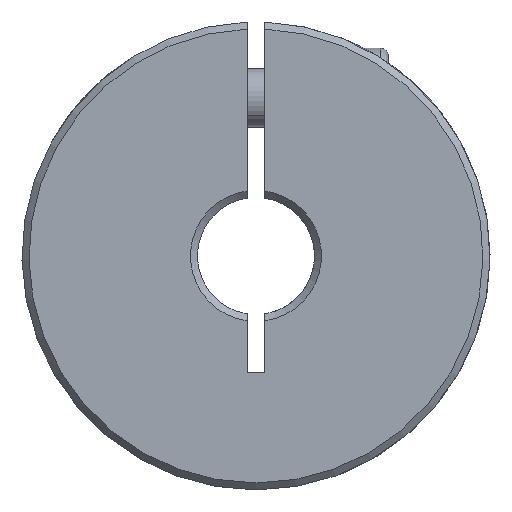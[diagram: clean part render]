
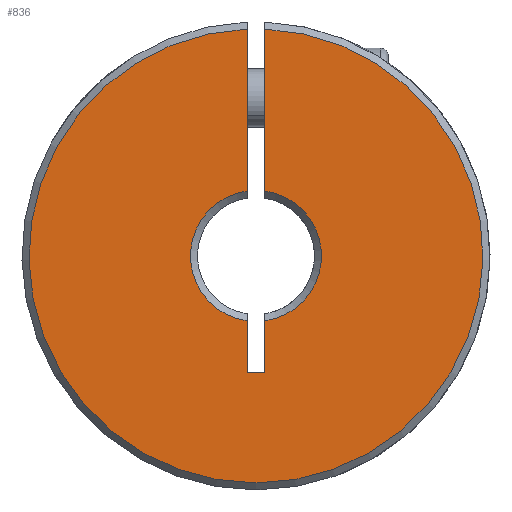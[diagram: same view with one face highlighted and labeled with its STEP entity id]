
A CAD part, front view. The second image highlights one B-rep face of the part: STEP entity #836.
In plain terms, the highlighted planar face has unit normal (0, -1, 0).
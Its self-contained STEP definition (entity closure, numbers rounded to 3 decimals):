
#24 = CARTESIAN_POINT ( 'NONE',  ( 0., -25., 0. ) ) ;
#72 = ORIENTED_EDGE ( 'NONE', *, *, #2933, .T. ) ;
#148 = EDGE_CURVE ( 'NONE', #2249, #572, #5348, .T. ) ;
#203 = VERTEX_POINT ( 'NONE', #5585 ) ;
#226 = AXIS2_PLACEMENT_3D ( 'NONE', #1311, #4917, #852 ) ;
#239 = AXIS2_PLACEMENT_3D ( 'NONE', #24, #482, #3671 ) ;
#270 = EDGE_LOOP ( 'NONE', ( #4717, #2692, #3894, #5041, #2250, #2027, #72, #3761 ) ) ;
#297 = CARTESIAN_POINT ( 'NONE',  ( 0.75, -25., -5.55 ) ) ;
#482 = DIRECTION ( 'NONE',  ( 0., 1., 0. ) ) ;
#572 = VERTEX_POINT ( 'NONE', #4559 ) ;
#682 = VECTOR ( 'NONE', #1394, 1000. ) ;
#836 = ADVANCED_FACE ( 'NONE', ( #5671 ), #1992, .F. ) ;
#852 = DIRECTION ( 'NONE',  ( 0., 0., 1. ) ) ;
#950 = DIRECTION ( 'NONE',  ( 0., 0., -1. ) ) ;
#973 = EDGE_CURVE ( 'NONE', #3201, #2249, #2307, .T. ) ;
#997 = VECTOR ( 'NONE', #2251, 1000. ) ;
#1138 = DIRECTION ( 'NONE',  ( 0., 0., 1. ) ) ;
#1218 = VECTOR ( 'NONE', #2365, 1000. ) ;
#1311 = CARTESIAN_POINT ( 'NONE',  ( 0., -25., 0. ) ) ;
#1394 = DIRECTION ( 'NONE',  ( 0., 0., 1. ) ) ;
#1444 = CARTESIAN_POINT ( 'NONE',  ( -0.75, -25., -10. ) ) ;
#1468 = LINE ( 'NONE', #4246, #1218 ) ;
#1509 = VECTOR ( 'NONE', #1640, 1000. ) ;
#1543 = CARTESIAN_POINT ( 'NONE',  ( 0.75, -25., 19.385 ) ) ;
#1603 = VERTEX_POINT ( 'NONE', #5648 ) ;
#1640 = DIRECTION ( 'NONE',  ( 0., 0., 1. ) ) ;
#1721 = EDGE_CURVE ( 'NONE', #3378, #203, #2514, .T. ) ;
#1992 = PLANE ( 'NONE',  #4302 ) ;
#2027 = ORIENTED_EDGE ( 'NONE', *, *, #5778, .T. ) ;
#2249 = VERTEX_POINT ( 'NONE', #297 ) ;
#2250 = ORIENTED_EDGE ( 'NONE', *, *, #1721, .T. ) ;
#2251 = DIRECTION ( 'NONE',  ( 0., 0., -1. ) ) ;
#2307 = CIRCLE ( 'NONE', #226, 5.6 ) ;
#2365 = DIRECTION ( 'NONE',  ( -1., 0., 0. ) ) ;
#2456 = EDGE_CURVE ( 'NONE', #572, #3378, #1468, .T. ) ;
#2514 = LINE ( 'NONE', #5708, #1509 ) ;
#2640 = EDGE_CURVE ( 'NONE', #4040, #5136, #4440, .T. ) ;
#2692 = ORIENTED_EDGE ( 'NONE', *, *, #973, .T. ) ;
#2698 = CIRCLE ( 'NONE', #239, 5.6 ) ;
#2800 = CARTESIAN_POINT ( 'NONE',  ( -0.75, -25., 19.385 ) ) ;
#2933 = EDGE_CURVE ( 'NONE', #1603, #4040, #5487, .T. ) ;
#2941 = DIRECTION ( 'NONE',  ( 0., 1., 0. ) ) ;
#3198 = CARTESIAN_POINT ( 'NONE',  ( 0.75, -25., -10. ) ) ;
#3201 = VERTEX_POINT ( 'NONE', #3893 ) ;
#3378 = VERTEX_POINT ( 'NONE', #1444 ) ;
#3420 = CARTESIAN_POINT ( 'NONE',  ( 0., -25., 0. ) ) ;
#3614 = LINE ( 'NONE', #4156, #997 ) ;
#3671 = DIRECTION ( 'NONE',  ( 0., 0., 1. ) ) ;
#3761 = ORIENTED_EDGE ( 'NONE', *, *, #2640, .T. ) ;
#3893 = CARTESIAN_POINT ( 'NONE',  ( 0.75, -25., 5.55 ) ) ;
#3894 = ORIENTED_EDGE ( 'NONE', *, *, #148, .T. ) ;
#3995 = VECTOR ( 'NONE', #950, 1000. ) ;
#4040 = VERTEX_POINT ( 'NONE', #2800 ) ;
#4156 = CARTESIAN_POINT ( 'NONE',  ( 0.75, -25., -10. ) ) ;
#4246 = CARTESIAN_POINT ( 'NONE',  ( -0.75, -25., -10. ) ) ;
#4302 = AXIS2_PLACEMENT_3D ( 'NONE', #3420, #2941, #5729 ) ;
#4440 = CIRCLE ( 'NONE', #4545, 19.4 ) ;
#4545 = AXIS2_PLACEMENT_3D ( 'NONE', #5213, #5098, #1138 ) ;
#4559 = CARTESIAN_POINT ( 'NONE',  ( 0.75, -25., -10. ) ) ;
#4717 = ORIENTED_EDGE ( 'NONE', *, *, #5707, .T. ) ;
#4917 = DIRECTION ( 'NONE',  ( 0., 1., 0. ) ) ;
#4947 = CARTESIAN_POINT ( 'NONE',  ( -0.75, -25., -10. ) ) ;
#5041 = ORIENTED_EDGE ( 'NONE', *, *, #2456, .T. ) ;
#5098 = DIRECTION ( 'NONE',  ( 0., -1., 0. ) ) ;
#5136 = VERTEX_POINT ( 'NONE', #1543 ) ;
#5213 = CARTESIAN_POINT ( 'NONE',  ( 0., -25., 0. ) ) ;
#5348 = LINE ( 'NONE', #3198, #3995 ) ;
#5487 = LINE ( 'NONE', #4947, #682 ) ;
#5585 = CARTESIAN_POINT ( 'NONE',  ( -0.75, -25., -5.55 ) ) ;
#5648 = CARTESIAN_POINT ( 'NONE',  ( -0.75, -25., 5.55 ) ) ;
#5671 = FACE_OUTER_BOUND ( 'NONE', #270, .T. ) ;
#5707 = EDGE_CURVE ( 'NONE', #5136, #3201, #3614, .T. ) ;
#5708 = CARTESIAN_POINT ( 'NONE',  ( -0.75, -25., -10. ) ) ;
#5729 = DIRECTION ( 'NONE',  ( 0., 0., 1. ) ) ;
#5778 = EDGE_CURVE ( 'NONE', #203, #1603, #2698, .T. ) ;
